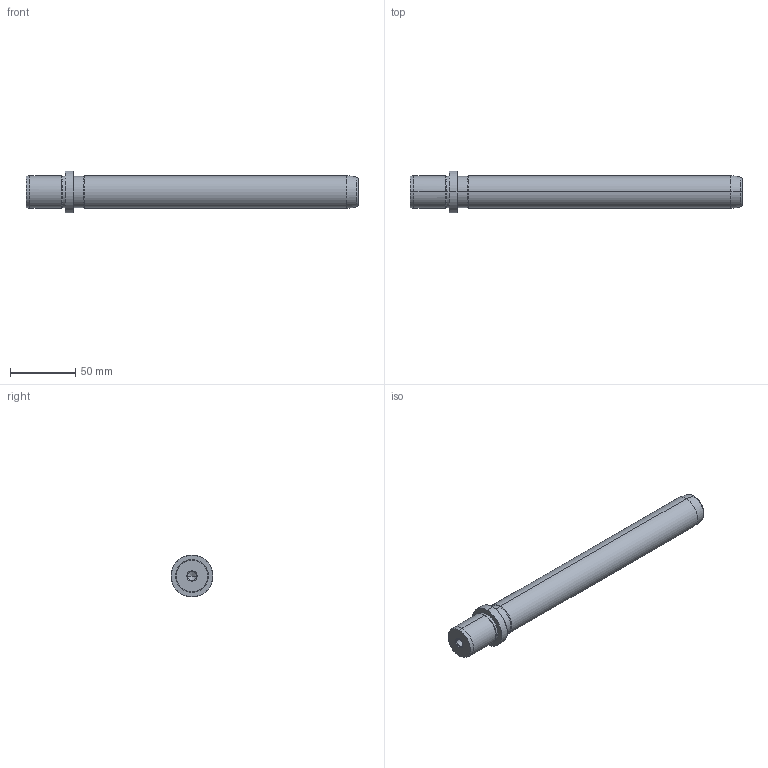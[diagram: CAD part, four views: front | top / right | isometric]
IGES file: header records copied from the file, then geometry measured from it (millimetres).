
Start section: START RECORD GO HERE.
Global section: file name: 718-25x224.igs; native system: DASSAULT SYSTEMES CATIA V5 R20 - www.3ds.com; preprocessor: CATIA Version 5 Release 20 ; author: Utente; organization: NB04-ASUS; date: 20210102.160529; units: millimetre
Bounding box: 254 x 32 x 32 mm (x, y, z)
Surface area: 22585.5 mm2 (no closed solid volume)
Topology: 0 solids, 0 shells, 36 faces, 196 edges, 192 vertices
Faces by surface type: revolution 32, plane 4
